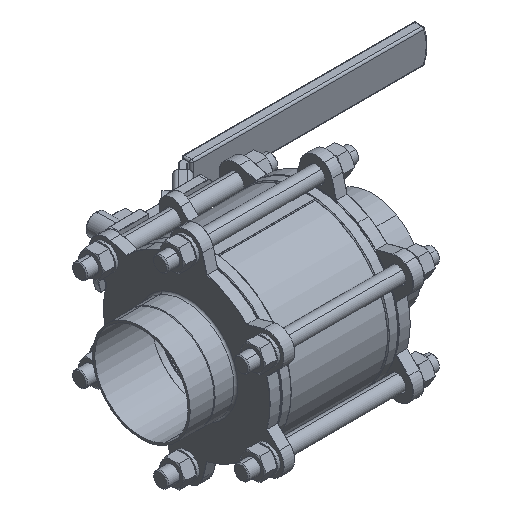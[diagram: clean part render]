
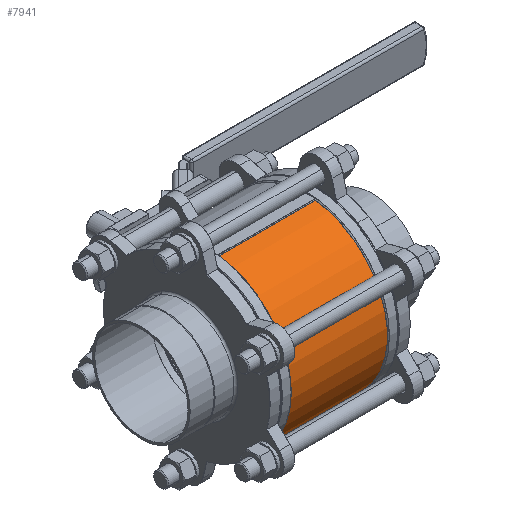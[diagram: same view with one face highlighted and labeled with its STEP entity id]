
A CAD part, isometric view. The second image highlights one B-rep face of the part: STEP entity #7941.
In plain terms, the highlighted cylindrical face has radius 86 mm (diameter 172 mm), a partial arc.
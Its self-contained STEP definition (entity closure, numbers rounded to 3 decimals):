
#117 = DIRECTION ( 'NONE',  ( -1., 0., 0. ) ) ;
#901 = ORIENTED_EDGE ( 'NONE', *, *, #10056, .T. ) ;
#2278 = CIRCLE ( 'NONE', #21820, 86. ) ;
#2403 = ORIENTED_EDGE ( 'NONE', *, *, #4996, .T. ) ;
#2428 = VERTEX_POINT ( 'NONE', #6794 ) ;
#3590 = ORIENTED_EDGE ( 'NONE', *, *, #20093, .T. ) ;
#4004 = CYLINDRICAL_SURFACE ( 'NONE', #24739, 86. ) ;
#4350 = CARTESIAN_POINT ( 'NONE',  ( 50.167, 0., 0. ) ) ;
#4473 = CARTESIAN_POINT ( 'NONE',  ( 24.418, 0., 0. ) ) ;
#4996 = EDGE_CURVE ( 'NONE', #9011, #2428, #5722, .T. ) ;
#5722 = LINE ( 'NONE', #24898, #14586 ) ;
#6259 = DIRECTION ( 'NONE',  ( 0., 0., -1. ) ) ;
#6794 = CARTESIAN_POINT ( 'NONE',  ( -50.167, -11.069, 85.285 ) ) ;
#7941 = ADVANCED_FACE ( 'NONE', ( #14473 ), #4004, .T. ) ;
#9011 = VERTEX_POINT ( 'NONE', #23615 ) ;
#9378 = VECTOR ( 'NONE', #22261, 1000. ) ;
#10056 = EDGE_CURVE ( 'NONE', #12633, #9011, #2278, .T. ) ;
#10226 = CARTESIAN_POINT ( 'NONE',  ( -50.167, -11.069, -85.285 ) ) ;
#11891 = CARTESIAN_POINT ( 'NONE',  ( -50.167, 0., 0. ) ) ;
#11930 = DIRECTION ( 'NONE',  ( 0., 0., -1. ) ) ;
#12350 = DIRECTION ( 'NONE',  ( -1., 0., 0. ) ) ;
#12633 = VERTEX_POINT ( 'NONE', #24399 ) ;
#13768 = CIRCLE ( 'NONE', #16650, 86. ) ;
#14473 = FACE_OUTER_BOUND ( 'NONE', #15829, .T. ) ;
#14586 = VECTOR ( 'NONE', #12350, 1000. ) ;
#14931 = ORIENTED_EDGE ( 'NONE', *, *, #15656, .T. ) ;
#15620 = DIRECTION ( 'NONE',  ( 1., 0., 0. ) ) ;
#15656 = EDGE_CURVE ( 'NONE', #20748, #12633, #15954, .T. ) ;
#15829 = EDGE_LOOP ( 'NONE', ( #2403, #3590, #14931, #901 ) ) ;
#15954 = LINE ( 'NONE', #24264, #9378 ) ;
#16650 = AXIS2_PLACEMENT_3D ( 'NONE', #11891, #22630, #20426 ) ;
#20093 = EDGE_CURVE ( 'NONE', #2428, #20748, #13768, .T. ) ;
#20426 = DIRECTION ( 'NONE',  ( 0., 0., -1. ) ) ;
#20748 = VERTEX_POINT ( 'NONE', #10226 ) ;
#21820 = AXIS2_PLACEMENT_3D ( 'NONE', #4350, #117, #6259 ) ;
#22261 = DIRECTION ( 'NONE',  ( 1., 0., 0. ) ) ;
#22630 = DIRECTION ( 'NONE',  ( 1., 0., 0. ) ) ;
#23615 = CARTESIAN_POINT ( 'NONE',  ( 50.167, -11.069, 85.285 ) ) ;
#24264 = CARTESIAN_POINT ( 'NONE',  ( 24.418, -11.069, -85.285 ) ) ;
#24399 = CARTESIAN_POINT ( 'NONE',  ( 50.167, -11.069, -85.285 ) ) ;
#24739 = AXIS2_PLACEMENT_3D ( 'NONE', #4473, #15620, #11930 ) ;
#24898 = CARTESIAN_POINT ( 'NONE',  ( 24.418, -11.069, 85.285 ) ) ;
